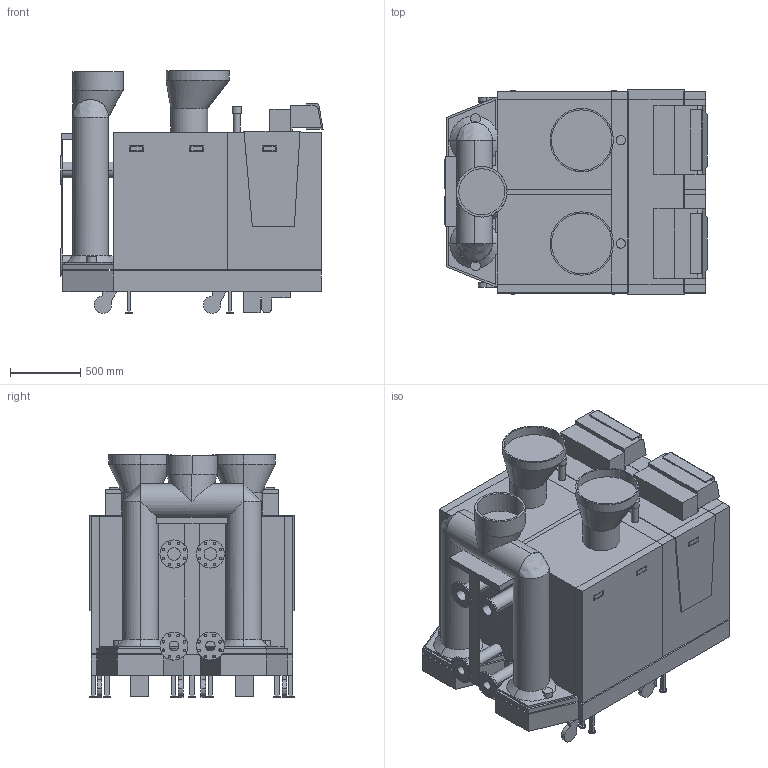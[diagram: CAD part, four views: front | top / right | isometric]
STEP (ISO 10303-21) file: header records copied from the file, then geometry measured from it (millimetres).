
FILE_DESCRIPTION (( 'STEP AP203' ), '1' );
FILE_NAME ('gas 610 ECO pro 5-7 leden.STEP', '2012-02-06T10:02:36', ( 'PICCA04' ), ( 'Microsoft' ), 'SwSTEP 2.0', 'SolidWorks 2011', '' );
FILE_SCHEMA (( 'CONFIG_CONTROL_DESIGN' ));
Length unit declared in the file: millimetre
Products named in the file (1): gas 610 ECO pro 5-7 leden
Bounding box: 1871.76 x 1460 x 1733.28 mm (x, y, z)
Volume: 2803772295.7 mm3; surface area: 21462736.7 mm2
Topology: 1 solids, 1 shells, 526 faces, 1413 edges, 942 vertices
Faces by surface type: plane 328, cylinder 186, bspline 8, cone 4
Entity records: 19281 total; most frequent: CARTESIAN_POINT 5627, ORIENTED_EDGE 2826, DIRECTION 2775, EDGE_CURVE 1413, LINE 961, VECTOR 961, VERTEX_POINT 942, AXIS2_PLACEMENT_3D 907
